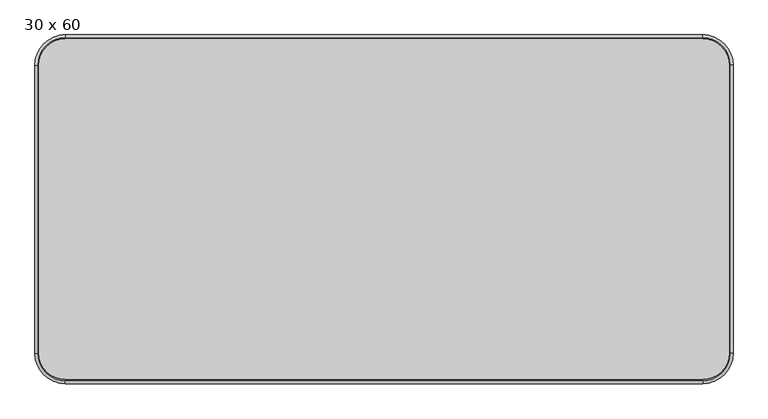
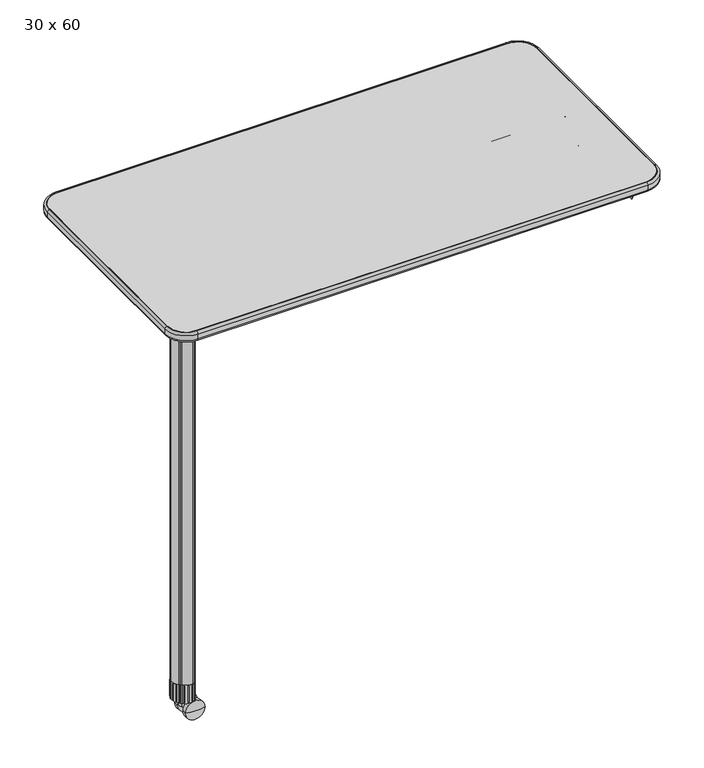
"""IFC4 building model written with IfcOpenShell, lengths in millimetres: furniture geometry, SmithSystem_AM_Desking_Education_Interchange_Student_Activity : 30 x 60."""

from ifc_helpers import new_model, si_unit, point, frame, frame_2d, origin, place, context, project, spatial, polyline, circle_curve, ellipse_curve, trimmed, segment, composite_curve, outline, extrude, source, transform, mapped, element, save
from ifc_brep_helpers import plane_surface, cylinder_surface, revolved_surface, advanced_brep


def furniture_30_x_60_9882679b(model_context):
    return source(origin(), model_context, "Body", "SolidModel", [
        advanced_brep(
        [(44.3181701, 75.4828432, 35.017382), (104.9234839, 75.4828432, 35.017382), (74.620827, 75.4828432, 35.017382), (74.620827, 93.8056302, 35.017382), (104.9234839, 88.7241133, 35.017382), (44.3181701, 88.7241133, 35.017382)],
        [
            (0, 1, circle_curve(frame((74.620827, 75.4828432, 35.017382), z_axis=(0.0, -1.0, 0.0), x_axis=(1.0000000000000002, 0.0, 0.0)), 30.3026569)),
            (1, 2),
            (2, 0),
            (1, 0, circle_curve(frame((74.620827, 75.4828432, 35.017382), z_axis=(0.0, -1.0, 0.0), x_axis=(1.0000000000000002, 0.0, 0.0)), 30.3026569)),
            (3, 4, circle_curve(frame((74.620827, 0.9128138, 35.017382), z_axis=(0.0, 0.0, -1.0000000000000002), x_axis=(0.0, -1.0, 0.0)), 92.8928164)),
            (4, 5, circle_curve(frame((74.620827, 88.7241133, 35.017382), z_axis=(0.0, 1.0, 0.0), x_axis=(1.0000000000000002, 0.0, 0.0)), 30.3026569)),
            (5, 3, circle_curve(frame((74.620827, 0.9128138, 35.017382), z_axis=(0.0, 0.0, -1.0000000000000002), x_axis=(0.0, -1.0, 0.0)), 92.8928164)),
            (5, 4, circle_curve(frame((74.620827, 88.7241133, 35.017382), z_axis=(0.0, 1.0, 0.0), x_axis=(1.0000000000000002, 0.0, 0.0)), 30.3026569)),
            (4, 1),
            (0, 5),
        ],
        [
            plane_surface(frame((74.620827, 75.4828432, 35.017382), z_axis=(0.0, -1.0, 0.0), x_axis=(1.0, 0.0, 0.0))),
            revolved_surface(trimmed(ellipse_curve(frame((74.620827, 0.9128138, 35.017382), z_axis=(0.0, 0.0, 1.0000000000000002), x_axis=(0.0, -1.0, 0.0)), 92.8928164, 92.8928164), [point((104.9234839, 88.7241133, 35.017382))], [point((74.620827, 93.8056302, 35.017382))], True, "CARTESIAN"), (74.620827, 75.4828432, 35.017382), (0.0, 1.0, 0.0)),
            cylinder_surface(frame((74.620827, 75.4828432, 35.017382), z_axis=(0.0, 1.0, 0.0), x_axis=(1.0000000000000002, 0.0, 0.0)), 30.3026569),
        ],
        [
            (0, [[1, 2, 3]]),
            (0, [[4, -3, -2]]),
            (1, [[5, 6, 7]]),
            (1, [[-7, 8, -5]]),
            (2, [[-6, 9, -1, 10]]),
            (2, [[-8, -10, -4, -9]]),
        ],
    ),
        advanced_brep(
        [(44.3181701, 44.8805061, 35.017382), (104.9234839, 44.8805061, 35.017382), (104.9234839, 31.639236, 35.017382), (44.3181701, 31.639236, 35.017382), (74.620827, 26.5577191, 35.017382), (74.620827, 44.8805061, 35.017382)],
        [
            (0, 1, circle_curve(frame((74.620827, 44.8805061, 35.017382), z_axis=(0.0, -1.0, 0.0), x_axis=(1.0000000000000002, 0.0, 0.0)), 30.3026569)),
            (1, 2),
            (2, 3, circle_curve(frame((74.620827, 31.639236, 35.017382), z_axis=(0.0, 1.0, 0.0), x_axis=(1.0000000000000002, 0.0, 0.0)), 30.3026569)),
            (3, 0),
            (1, 0, circle_curve(frame((74.620827, 44.8805061, 35.017382), z_axis=(0.0, -1.0, 0.0), x_axis=(1.0000000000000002, 0.0, 0.0)), 30.3026569)),
            (3, 2, circle_curve(frame((74.620827, 31.639236, 35.017382), z_axis=(0.0, 1.0, 0.0), x_axis=(1.0000000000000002, 0.0, 0.0)), 30.3026569)),
            (2, 4, circle_curve(frame((74.620827, 119.4505355, 35.017382), z_axis=(0.0, 0.0, -1.0000000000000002), x_axis=(0.0, -1.0, 0.0)), 92.8928164)),
            (4, 3, circle_curve(frame((74.620827, 119.4505355, 35.017382), z_axis=(0.0, 0.0, -1.0000000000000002), x_axis=(0.0, -1.0, 0.0)), 92.8928164)),
            (5, 1),
            (0, 5),
        ],
        [
            cylinder_surface(frame((74.620827, 75.4828432, 35.017382), z_axis=(0.0, 1.0, 0.0), x_axis=(1.0000000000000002, 0.0, 0.0)), 30.3026569),
            revolved_surface(trimmed(ellipse_curve(frame((74.620827, 119.4505355, 35.017382), z_axis=(0.0, 0.0, 1.0000000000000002), x_axis=(0.0, -1.0, 0.0)), 92.8928164, 92.8928164), [point((74.620827, 26.5577191, 35.017382))], [point((104.9234839, 31.639236, 35.017382))], True, "CARTESIAN"), (74.620827, 75.4828432, 35.017382), (0.0, 1.0, 0.0)),
            plane_surface(frame((74.620827, 44.8805061, 35.017382), z_axis=(0.0, 1.0, 0.0), x_axis=(1.0, 0.0, 0.0))),
        ],
        [
            (0, [[1, 2, 3, 4]]),
            (0, [[5, -4, 6, -2]]),
            (1, [[-3, 7, 8]]),
            (1, [[-6, -8, -7]]),
            (2, [[9, -1, 10]]),
            (2, [[-10, -5, -9]]),
        ],
    ),
        advanced_brep(
        [(51.3766004, 59.5614841, 82.55), (66.4982897, 74.6831734, 82.55), (36.2549111, 44.4397948, 82.55), (44.5409023, 52.725786, 44.141232), (58.2122984, 66.3971821, 44.141232), (51.3766004, 59.5614841, 44.141232), (44.5409023, 52.725786, 70.5739), (58.2122984, 66.3971821, 70.5739), (48.2776927, 56.4625764, 70.5739), (54.475508, 62.6603917, 70.5739), (48.2776927, 56.4625764, 72.4789), (54.475508, 62.6603917, 72.4789), (44.5409023, 52.725786, 72.4789), (58.2122984, 66.3971821, 72.4789), (44.5409023, 52.725786, 77.5589), (58.2122984, 66.3971821, 77.5589), (36.2549111, 44.4397948, 77.5589), (66.4982897, 74.6831734, 77.5589)],
        [
            (0, 1),
            (1, 2, circle_curve(frame((51.3766004, 59.5614841, 82.55), z_axis=(0.0, 0.0, 1.0), x_axis=(0.7071067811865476, 0.7071067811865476, 0.0)), 21.3852981)),
            (2, 0),
            (2, 1, circle_curve(frame((51.3766004, 59.5614841, 82.55), z_axis=(0.0, 0.0, 1.0), x_axis=(0.7071067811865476, 0.7071067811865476, 0.0)), 21.3852981)),
            (3, 4, circle_curve(frame((51.3766004, 59.5614841, 44.141232), z_axis=(0.0, 0.0, -1.0), x_axis=(0.7071067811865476, 0.7071067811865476, 0.0)), 9.6671369)),
            (4, 5),
            (5, 3),
            (4, 3, circle_curve(frame((51.3766004, 59.5614841, 44.141232), z_axis=(0.0, 0.0, -1.0), x_axis=(0.7071067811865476, 0.7071067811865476, 0.0)), 9.6671369)),
            (6, 7, circle_curve(frame((51.3766004, 59.5614841, 70.5739), z_axis=(0.0, 0.0, -1.0), x_axis=(0.7071067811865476, 0.7071067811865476, 0.0)), 9.6671369)),
            (7, 4),
            (3, 6),
            (7, 6, circle_curve(frame((51.3766004, 59.5614841, 70.5739), z_axis=(0.0, 0.0, -1.0), x_axis=(0.7071067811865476, 0.7071067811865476, 0.0)), 9.6671369)),
            (8, 9, circle_curve(frame((51.3766004, 59.5614841, 70.5739), z_axis=(0.0, 0.0, -1.0), x_axis=(0.7071067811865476, 0.7071067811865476, 0.0)), 4.3825172)),
            (9, 7),
            (6, 8),
            (9, 8, circle_curve(frame((51.3766004, 59.5614841, 70.5739), z_axis=(0.0, 0.0, -1.0), x_axis=(0.7071067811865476, 0.7071067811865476, 0.0)), 4.3825172)),
            (10, 11, circle_curve(frame((51.3766004, 59.5614841, 72.4789), z_axis=(0.0, 0.0, -1.0), x_axis=(0.7071067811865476, 0.7071067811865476, 0.0)), 4.3825172)),
            (11, 9),
            (8, 10),
            (11, 10, circle_curve(frame((51.3766004, 59.5614841, 72.4789), z_axis=(0.0, 0.0, -1.0), x_axis=(0.7071067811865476, 0.7071067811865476, 0.0)), 4.3825172)),
            (12, 13, circle_curve(frame((51.3766004, 59.5614841, 72.4789), z_axis=(0.0, 0.0, -1.0), x_axis=(0.7071067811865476, 0.7071067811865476, 0.0)), 9.6671369)),
            (13, 11),
            (10, 12),
            (13, 12, circle_curve(frame((51.3766004, 59.5614841, 72.4789), z_axis=(0.0, 0.0, -1.0), x_axis=(0.7071067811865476, 0.7071067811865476, 0.0)), 9.6671369)),
            (14, 15, circle_curve(frame((51.3766004, 59.5614841, 77.5589), z_axis=(0.0, 0.0, -1.0), x_axis=(0.7071067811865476, 0.7071067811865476, 0.0)), 9.6671369)),
            (15, 13),
            (12, 14),
            (15, 14, circle_curve(frame((51.3766004, 59.5614841, 77.5589), z_axis=(0.0, 0.0, -1.0), x_axis=(0.7071067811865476, 0.7071067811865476, 0.0)), 9.6671369)),
            (16, 17, circle_curve(frame((51.3766004, 59.5614841, 77.5589), z_axis=(0.0, 0.0, -1.0), x_axis=(0.7071067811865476, 0.7071067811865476, 0.0)), 21.3852981)),
            (17, 15),
            (14, 16),
            (17, 16, circle_curve(frame((51.3766004, 59.5614841, 77.5589), z_axis=(0.0, 0.0, -1.0), x_axis=(0.7071067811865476, 0.7071067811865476, 0.0)), 21.3852981)),
            (1, 17),
            (16, 2),
        ],
        [
            plane_surface(frame((51.3766004, 59.5614841, 82.55), z_axis=(0.0, 0.0, 1.0000000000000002), x_axis=(0.7071067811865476, 0.7071067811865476, 0.0))),
            plane_surface(frame((51.3766004, 59.5614841, 44.141232), z_axis=(0.0, 0.0, -1.0000000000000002), x_axis=(0.7071067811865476, 0.7071067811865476, 0.0))),
            cylinder_surface(frame((51.3766004, 59.5614841, 56.841232), z_axis=(0.0, 0.0, 1.0), x_axis=(0.7071067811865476, 0.7071067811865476, 0.0)), 9.6671369),
            plane_surface(frame((51.3766004, 59.5614841, 70.5739), z_axis=(0.0, 0.0, 1.0000000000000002), x_axis=(0.7071067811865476, 0.7071067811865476, 0.0))),
            cylinder_surface(frame((51.3766004, 59.5614841, 56.841232), z_axis=(0.0, 0.0, 1.0), x_axis=(0.7071067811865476, 0.7071067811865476, 0.0)), 4.3825172),
            plane_surface(frame((51.3766004, 59.5614841, 72.4789), z_axis=(0.0, 0.0, -1.0000000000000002), x_axis=(0.7071067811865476, 0.7071067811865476, 0.0))),
            plane_surface(frame((51.3766004, 59.5614841, 77.5589), z_axis=(0.0, 0.0, -1.0000000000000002), x_axis=(0.7071067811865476, 0.7071067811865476, 0.0))),
            cylinder_surface(frame((51.3766004, 59.5614841, 56.841232), z_axis=(0.0, 0.0, 1.0), x_axis=(0.7071067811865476, 0.7071067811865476, 0.0)), 21.3852981),
        ],
        [
            (0, [[1, 2, 3]]),
            (0, [[-3, 4, -1]]),
            (1, [[5, 6, 7]]),
            (1, [[8, -7, -6]]),
            (2, [[9, 10, -5, 11]]),
            (2, [[12, -11, -8, -10]]),
            (3, [[13, 14, -9, 15]]),
            (3, [[16, -15, -12, -14]]),
            (4, [[17, 18, -13, 19]]),
            (4, [[20, -19, -16, -18]]),
            (5, [[21, 22, -17, 23]]),
            (5, [[24, -23, -20, -22]]),
            (2, [[25, 26, -21, 27]]),
            (2, [[28, -27, -24, -26]]),
            (6, [[29, 30, -25, 31]]),
            (6, [[32, -31, -28, -30]]),
            (7, [[-2, 33, -29, 34]]),
            (7, [[-4, -34, -32, -33]]),
        ],
    ),
        extrude(outline(composite_curve([segment(trimmed(circle_curve(frame_2d((47.190021, 48.1906998)), 32.5855406), [point((70.2314777, 71.2321565))], [point((79.5326739, 44.2195213))], False, "CARTESIAN"), True, "CONTINUOUS"), segment(trimmed(circle_curve(frame_2d((60.0047299, 46.6172514)), 19.6745954), [point((79.5326739, 44.2195213))], [point((78.1727203, 39.0665011))], False, "CARTESIAN"), True, "CONTINUOUS"), segment(trimmed(circle_curve(frame_2d((69.9070972, 42.5017548)), 8.9510611), [point((78.1727203, 39.0665011))], [point((76.2364532, 36.1723988))], False, "CARTESIAN"), True, "CONTINUOUS"), segment(polyline([(76.2364532, 36.1723988), (75.5010694, 35.4370151), (74.7656856, 34.7016313)]), True, "CONTINUOUS"), segment(trimmed(circle_curve(frame_2d((68.4363296, 41.0309873)), 8.9510611), [point((74.7656856, 34.7016313))], [point((71.8715833, 32.7653641))], False, "CARTESIAN"), True, "CONTINUOUS"), segment(trimmed(circle_curve(frame_2d((64.3208331, 50.9333545)), 19.6745954), [point((71.8715833, 32.7653641))], [point((66.7185631, 31.4054105))], False, "CARTESIAN"), True, "CONTINUOUS"), segment(trimmed(circle_curve(frame_2d((62.7473847, 63.7480635)), 32.5855406), [point((66.7185631, 31.4054105))], [point((39.7059279, 40.7066067))], False, "CARTESIAN"), True, "CONTINUOUS"), segment(polyline([(39.7059279, 40.7066067), (36.1138255, 44.2987092), (32.521723, 47.8908116)]), True, "CONTINUOUS"), segment(trimmed(circle_curve(frame_2d((55.5631798, 70.9322684)), 32.5855406), [point((32.521723, 47.8908116))], [point((23.2205268, 74.9034468))], False, "CARTESIAN"), True, "CONTINUOUS"), segment(trimmed(circle_curve(frame_2d((42.7484708, 72.5057168)), 19.6745954), [point((23.2205268, 74.9034468))], [point((24.5804804, 80.056467))], False, "CARTESIAN"), True, "CONTINUOUS"), segment(trimmed(circle_curve(frame_2d((32.8461036, 76.6212133)), 8.9510611), [point((24.5804804, 80.056467))], [point((26.5167476, 82.9505693))], False, "CARTESIAN"), True, "CONTINUOUS"), segment(polyline([(26.5167476, 82.9505693), (27.2521313, 83.6859531), (27.9875151, 84.4213369)]), True, "CONTINUOUS"), segment(trimmed(circle_curve(frame_2d((34.3168711, 78.0919809)), 8.9510611), [point((27.9875151, 84.4213369))], [point((30.8816174, 86.3576041))], False, "CARTESIAN"), True, "CONTINUOUS"), segment(trimmed(circle_curve(frame_2d((38.4323677, 68.1896136)), 19.6745954), [point((30.8816174, 86.3576041))], [point((36.0346376, 87.7175576))], False, "CARTESIAN"), True, "CONTINUOUS"), segment(trimmed(circle_curve(frame_2d((40.0058161, 55.3749047)), 32.5855406), [point((36.0346376, 87.7175576))], [point((63.0472728, 78.4163614))], False, "CARTESIAN"), True, "CONTINUOUS"), segment(polyline([(63.0472728, 78.4163614), (66.6393752, 74.824259), (70.2314777, 71.2321565)]), True, "CONTINUOUS")], self_intersect=False)), frame((0.0, 0.0, 63.4997351), z_axis=(0.0, 0.0, 1.0), x_axis=(1.0, 0.0, 0.0)), (0.0, 0.0, 1.0), 59.42631),
        extrude(outline(composite_curve([segment(polyline([(35.2157999, 45.1967348), (36.1138255, 44.2987092), (37.0118511, 43.4006836)]), True, "CONTINUOUS"), segment(trimmed(circle_curve(frame_2d((36.1138255, 44.2987092)), 1.27), [point((37.0118511, 43.4006836))], [point((35.2157999, 45.1967348))], False, "CARTESIAN"), True, "CONTINUOUS")], self_intersect=False)), frame((0.0, 0.0, 67.2639757), z_axis=(0.0, 0.0, 1.0), x_axis=(1.0, 0.0, 0.0)), (0.0, 0.0, 1.0), 52.9554897),
        extrude(outline(composite_curve([segment(polyline([(28.1764663, 84.5576694), (27.2784407, 83.6596437), (26.3804151, 82.7616181)]), True, "CONTINUOUS"), segment(trimmed(circle_curve(frame_2d((27.2784407, 83.6596437)), 1.27), [point((26.3804151, 82.7616181))], [point((28.1764663, 84.5576694))], False, "CARTESIAN"), True, "CONTINUOUS")], self_intersect=False)), frame((0.0, 0.0, 67.2639757), z_axis=(0.0, 0.0, 1.0), x_axis=(1.0, 0.0, 0.0)), (0.0, 0.0, 1.0), 52.9554897),
        extrude(outline(composite_curve([segment(trimmed(circle_curve(frame_2d((75.47476, 35.4633244)), 1.27), [point((76.3727856, 36.36135))], [point((74.5767344, 34.5652988))], False, "CARTESIAN"), True, "CONTINUOUS"), segment(polyline([(74.5767344, 34.5652988), (75.47476, 35.4633244), (76.3727856, 36.36135)]), True, "CONTINUOUS")], self_intersect=False)), frame((0.0, 0.0, 67.2639757), z_axis=(0.0, 0.0, 1.0), x_axis=(1.0, 0.0, 0.0)), (0.0, 0.0, 1.0), 52.9554897),
        extrude(outline(composite_curve([segment(trimmed(circle_curve(frame_2d((65.6084721, 31.3425404)), 1.27), [point((66.874417, 31.4439485))], [point((64.3425272, 31.2411324))], False, "CARTESIAN"), True, "CONTINUOUS"), segment(polyline([(64.3425272, 31.2411324), (65.6084721, 31.3425404), (66.874417, 31.4439485)]), True, "CONTINUOUS")], self_intersect=False)), frame((0.0, 0.0, 67.2639757), z_axis=(0.0, 0.0, 1.0), x_axis=(1.0, 0.0, 0.0)), (0.0, 0.0, 1.0), 52.9554897),
        extrude(outline(composite_curve([segment(trimmed(circle_curve(frame_2d((54.5655031, 32.2765941)), 1.27), [point((55.7954927, 31.960326))], [point((53.3355135, 32.5928623))], False, "CARTESIAN"), True, "CONTINUOUS"), segment(polyline([(53.3355135, 32.5928623), (54.5655031, 32.2765941), (55.7954927, 31.960326)]), True, "CONTINUOUS")], self_intersect=False)), frame((0.0, 0.0, 67.2639757), z_axis=(0.0, 0.0, 1.0), x_axis=(1.0, 0.0, 0.0)), (0.0, 0.0, 1.0), 52.9554897),
        extrude(outline(composite_curve([segment(trimmed(circle_curve(frame_2d((44.409403, 36.8760432)), 1.27), [point((45.4570451, 36.1581671))], [point((43.3617609, 37.5939193))], False, "CARTESIAN"), True, "CONTINUOUS"), segment(polyline([(43.3617609, 37.5939193), (44.409403, 36.8760432), (45.4570451, 36.1581671)]), True, "CONTINUOUS")], self_intersect=False)), frame((0.0, 0.0, 67.2639757), z_axis=(0.0, 0.0, 1.0), x_axis=(1.0, 0.0, 0.0)), (0.0, 0.0, 1.0), 52.9554897),
        extrude(outline(composite_curve([segment(polyline([(23.2590648, 75.0593007), (23.1576567, 73.7933558), (23.0562487, 72.5274109)]), True, "CONTINUOUS"), segment(trimmed(circle_curve(frame_2d((23.1576567, 73.7933558)), 1.27), [point((23.0562487, 72.5274109))], [point((23.2590648, 75.0593007))], False, "CARTESIAN"), True, "CONTINUOUS")], self_intersect=False)), frame((0.0, 0.0, 67.2639757), z_axis=(0.0, 0.0, 1.0), x_axis=(1.0, 0.0, 0.0)), (0.0, 0.0, 1.0), 52.9554897),
        extrude(outline(composite_curve([segment(polyline([(23.7754423, 63.9803764), (24.0917104, 62.7503868), (24.4079786, 61.5203972)]), True, "CONTINUOUS"), segment(trimmed(circle_curve(frame_2d((24.0917104, 62.7503868)), 1.27), [point((24.4079786, 61.5203972))], [point((23.7754423, 63.9803764))], False, "CARTESIAN"), True, "CONTINUOUS")], self_intersect=False)), frame((0.0, 0.0, 67.2639757), z_axis=(0.0, 0.0, 1.0), x_axis=(1.0, 0.0, 0.0)), (0.0, 0.0, 1.0), 52.9554897),
        extrude(outline(composite_curve([segment(polyline([(27.9732834, 53.6419288), (28.6911595, 52.5942867), (29.4090356, 51.5466446)]), True, "CONTINUOUS"), segment(trimmed(circle_curve(frame_2d((28.6911595, 52.5942867)), 1.27), [point((29.4090356, 51.5466446))], [point((27.9732834, 53.6419288))], False, "CARTESIAN"), True, "CONTINUOUS")], self_intersect=False)), frame((0.0, 0.0, 67.2639757), z_axis=(0.0, 0.0, 1.0), x_axis=(1.0, 0.0, 0.0)), (0.0, 0.0, 1.0), 52.9554897),
        extrude(outline(composite_curve([segment(trimmed(circle_curve(frame_2d((66.6393752, 74.824259)), 1.27), [point((65.7413496, 75.7222846))], [point((67.5374009, 73.9262333))], False, "CARTESIAN"), True, "CONTINUOUS"), segment(polyline([(67.5374009, 73.9262333), (66.6393752, 74.824259), (65.7413496, 75.7222846)]), True, "CONTINUOUS")], self_intersect=False)), frame((0.0, 0.0, 67.2639757), z_axis=(0.0, 0.0, 1.0), x_axis=(1.0, 0.0, 0.0)), (0.0, 0.0, 1.0), 52.9554897),
        extrude(outline(composite_curve([segment(polyline([(79.4941359, 44.0636675), (79.595544, 45.3296123), (79.696952, 46.5955572)]), True, "CONTINUOUS"), segment(trimmed(circle_curve(frame_2d((79.595544, 45.3296123)), 1.27), [point((79.696952, 46.5955572))], [point((79.4941359, 44.0636675))], False, "CARTESIAN"), True, "CONTINUOUS")], self_intersect=False)), frame((0.0, 0.0, 67.2639757), z_axis=(0.0, 0.0, 1.0), x_axis=(1.0, 0.0, 0.0)), (0.0, 0.0, 1.0), 52.9554897),
        extrude(outline(composite_curve([segment(polyline([(78.9777584, 55.1425917), (78.6614903, 56.3725813), (78.3452221, 57.602571)]), True, "CONTINUOUS"), segment(trimmed(circle_curve(frame_2d((78.6614903, 56.3725813)), 1.27), [point((78.3452221, 57.602571))], [point((78.9777584, 55.1425917))], False, "CARTESIAN"), True, "CONTINUOUS")], self_intersect=False)), frame((0.0, 0.0, 67.2639757), z_axis=(0.0, 0.0, 1.0), x_axis=(1.0, 0.0, 0.0)), (0.0, 0.0, 1.0), 52.9554897),
        extrude(outline(composite_curve([segment(polyline([(74.7799173, 65.4810394), (74.0620412, 66.5286815), (73.3441651, 67.5763235)]), True, "CONTINUOUS"), segment(trimmed(circle_curve(frame_2d((74.0620412, 66.5286815)), 1.27), [point((73.3441651, 67.5763235))], [point((74.7799173, 65.4810394))], False, "CARTESIAN"), True, "CONTINUOUS")], self_intersect=False)), frame((0.0, 0.0, 67.2639757), z_axis=(0.0, 0.0, 1.0), x_axis=(1.0, 0.0, 0.0)), (0.0, 0.0, 1.0), 52.9554897),
        extrude(outline(composite_curve([segment(trimmed(circle_curve(frame_2d((37.1447286, 87.7804277)), 1.27), [point((35.8787838, 87.6790197))], [point((38.4106735, 87.8818357))], False, "CARTESIAN"), True, "CONTINUOUS"), segment(polyline([(38.4106735, 87.8818357), (37.1447286, 87.7804277), (35.8787838, 87.6790197)]), True, "CONTINUOUS")], self_intersect=False)), frame((0.0, 0.0, 67.2639757), z_axis=(0.0, 0.0, 1.0), x_axis=(1.0, 0.0, 0.0)), (0.0, 0.0, 1.0), 52.9554897),
        extrude(outline(composite_curve([segment(trimmed(circle_curve(frame_2d((48.1876976, 86.846374)), 1.27), [point((46.957708, 87.1626422))], [point((49.4176872, 86.5301059))], False, "CARTESIAN"), True, "CONTINUOUS"), segment(polyline([(49.4176872, 86.5301059), (48.1876976, 86.846374), (46.957708, 87.1626422)]), True, "CONTINUOUS")], self_intersect=False)), frame((0.0, 0.0, 67.2639757), z_axis=(0.0, 0.0, 1.0), x_axis=(1.0, 0.0, 0.0)), (0.0, 0.0, 1.0), 52.9554897),
        extrude(outline(composite_curve([segment(trimmed(circle_curve(frame_2d((58.3437977, 82.2469249)), 1.27), [point((57.2961557, 82.964801))], [point((59.3914398, 81.5290489))], False, "CARTESIAN"), True, "CONTINUOUS"), segment(polyline([(59.3914398, 81.5290489), (58.3437977, 82.2469249), (57.2961557, 82.964801)]), True, "CONTINUOUS")], self_intersect=False)), frame((0.0, 0.0, 67.2639757), z_axis=(0.0, 0.0, 1.0), x_axis=(1.0, 0.0, 0.0)), (0.0, 0.0, 1.0), 52.9554897),
        extrude(outline(composite_curve([segment(polyline([(39.7059279, 40.7066067), (36.1138255, 44.2987092), (32.521723, 47.8908116)]), True, "CONTINUOUS"), segment(trimmed(circle_curve(frame_2d((55.5631798, 70.9322684)), 32.5855406), [point((32.521723, 47.8908116))], [point((23.2205268, 74.9034468))], False, "CARTESIAN"), True, "CONTINUOUS"), segment(trimmed(circle_curve(frame_2d((42.7484708, 72.5057168)), 19.6745954), [point((23.2205268, 74.9034468))], [point((24.5804804, 80.056467))], False, "CARTESIAN"), True, "CONTINUOUS"), segment(trimmed(circle_curve(frame_2d((32.8461036, 76.6212133)), 8.9510611), [point((24.5804804, 80.056467))], [point((26.5167476, 82.9505693))], False, "CARTESIAN"), True, "CONTINUOUS"), segment(polyline([(26.5167476, 82.9505693), (27.2521313, 83.6859531), (27.9875151, 84.4213369)]), True, "CONTINUOUS"), segment(trimmed(circle_curve(frame_2d((34.3168711, 78.0919809)), 8.9510611), [point((27.9875151, 84.4213369))], [point((30.8816174, 86.3576041))], False, "CARTESIAN"), True, "CONTINUOUS"), segment(trimmed(circle_curve(frame_2d((38.4323677, 68.1896136)), 19.6745954), [point((30.8816174, 86.3576041))], [point((36.0346376, 87.7175576))], False, "CARTESIAN"), True, "CONTINUOUS"), segment(trimmed(circle_curve(frame_2d((40.0058161, 55.3749047)), 32.5855406), [point((36.0346376, 87.7175576))], [point((63.0472728, 78.4163614))], False, "CARTESIAN"), True, "CONTINUOUS"), segment(polyline([(63.0472728, 78.4163614), (66.6393752, 74.824259), (70.2314777, 71.2321565)]), True, "CONTINUOUS"), segment(trimmed(circle_curve(frame_2d((47.190021, 48.1906998)), 32.5855406), [point((70.2314777, 71.2321565))], [point((79.5326739, 44.2195213))], False, "CARTESIAN"), True, "CONTINUOUS"), segment(trimmed(circle_curve(frame_2d((60.0047299, 46.6172514)), 19.6745954), [point((79.5326739, 44.2195213))], [point((78.1727203, 39.0665011))], False, "CARTESIAN"), True, "CONTINUOUS"), segment(trimmed(circle_curve(frame_2d((69.9070972, 42.5017548)), 8.9510611), [point((78.1727203, 39.0665011))], [point((76.2364532, 36.1723988))], False, "CARTESIAN"), True, "CONTINUOUS"), segment(polyline([(76.2364532, 36.1723988), (75.5010694, 35.4370151), (74.7656856, 34.7016313)]), True, "CONTINUOUS"), segment(trimmed(circle_curve(frame_2d((68.4363296, 41.0309873)), 8.9510611), [point((74.7656856, 34.7016313))], [point((71.8715833, 32.7653641))], False, "CARTESIAN"), True, "CONTINUOUS"), segment(trimmed(circle_curve(frame_2d((64.3208331, 50.9333545)), 19.6745954), [point((71.8715833, 32.7653641))], [point((66.7185631, 31.4054105))], False, "CARTESIAN"), True, "CONTINUOUS"), segment(trimmed(circle_curve(frame_2d((62.7473847, 63.7480635)), 32.5855406), [point((66.7185631, 31.4054105))], [point((39.7059279, 40.7066067))], False, "CARTESIAN"), True, "CONTINUOUS")], self_intersect=False)), frame((0.0, 0.0, 122.9260451), z_axis=(0.0, 0.0, 1.0), x_axis=(1.0, 0.0, 0.0)), (0.0, 0.0, 1.0), 1140.1156939),
        extrude(outline(polyline([(50.0797748, 85.1609527), (53.4246351, 88.5058129), (80.2662632, 61.6641848), (76.921403, 58.3193245), (50.0797748, 85.1609527)])), frame((0.0, 0.0, 1207.0152169), z_axis=(0.0, 0.0, 1.0), x_axis=(1.0, 0.0, 0.0)), (0.0, 0.0, 1.0), 56.0265221),
        extrude(outline(polyline([(53.7381843, 88.1922637), (53.7381843, 673.8077363), (79.1384349, 699.2079869), (79.1384349, 62.7920131), (53.7381843, 88.1922637)])), frame((0.0, 0.0, 1207.0152169), z_axis=(0.0, 0.0, 1.0), x_axis=(1.0, 0.0, 0.0)), (0.0, 0.0, 1.0), 57.997768),
        extrude(outline(polyline([(1470.2618157, 88.1922637), (1444.8615651, 62.7920131), (1444.8615651, 699.2088142), (1470.2618157, 673.8085636), (1470.2618157, 88.1922637)])), frame((0.0, 0.0, 1207.0152169), z_axis=(0.0, 0.0, 1.0), x_axis=(1.0, 0.0, 0.0)), (0.0, 0.0, 1.0), 57.997768),
        extrude(outline(composite_curve([segment(polyline([(405.9790347, 1212.4682392), (415.5040301, 1212.4682392)]), True, "CONTINUOUS"), segment(trimmed(circle_curve(frame_2d((415.5040301, 1213.7458547)), 1.2776155), [point((415.5040301, 1212.4682392))], [point((416.7816457, 1213.7458547))], True, "CARTESIAN"), True, "CONTINUOUS"), segment(polyline([(416.7816457, 1213.7458547), (416.7816457, 1261.771739)]), True, "CONTINUOUS"), segment(trimmed(circle_curve(frame_2d((415.5116457, 1261.771739)), 1.27), [point((416.7816457, 1261.771739))], [point((415.5116457, 1263.041739))], True, "CARTESIAN"), True, "CONTINUOUS"), segment(polyline([(415.5116457, 1263.041739), (346.4883543, 1263.041739)]), True, "CONTINUOUS"), segment(trimmed(circle_curve(frame_2d((346.4883543, 1261.771739)), 1.27), [point((346.4883543, 1263.041739))], [point((345.2183543, 1261.771739))], True, "CARTESIAN"), True, "CONTINUOUS"), segment(polyline([(345.2183543, 1261.771739), (345.2183543, 1213.7458547)]), True, "CONTINUOUS"), segment(trimmed(circle_curve(frame_2d((346.4959699, 1213.7458547)), 1.2776155), [point((345.2183543, 1213.7458547))], [point((346.4959699, 1212.4682392))], True, "CARTESIAN"), True, "CONTINUOUS"), segment(polyline([(346.4959699, 1212.4682392), (356.0209653, 1212.4682392), (356.0209653, 1210.5708623), (346.4959699, 1210.5708623)]), True, "CONTINUOUS"), segment(trimmed(circle_curve(frame_2d((346.4959699, 1213.7458842)), 3.175022), [point((346.4959699, 1210.5708623))], [point((343.3209479, 1213.7458842))], False, "CARTESIAN"), True, "CONTINUOUS"), segment(polyline([(343.3209479, 1213.7458842), (343.3209479, 1261.7109849)]), True, "CONTINUOUS"), segment(trimmed(circle_curve(frame_2d((346.6229479, 1261.7109849)), 3.302), [point((343.3209479, 1261.7109849))], [point((346.6229479, 1265.0129849))], False, "CARTESIAN"), True, "CONTINUOUS"), segment(polyline([(346.6229479, 1265.0129849), (415.3770521, 1265.0129849)]), True, "CONTINUOUS"), segment(trimmed(circle_curve(frame_2d((415.3770521, 1261.7109849)), 3.302), [point((415.3770521, 1265.0129849))], [point((418.6790521, 1261.7109849))], False, "CARTESIAN"), True, "CONTINUOUS"), segment(polyline([(418.6790521, 1261.7109849), (418.6790521, 1213.7458842)]), True, "CONTINUOUS"), segment(trimmed(circle_curve(frame_2d((415.5040301, 1213.7458842)), 3.175022), [point((418.6790521, 1213.7458842))], [point((415.5040301, 1210.5708623))], False, "CARTESIAN"), True, "CONTINUOUS"), segment(polyline([(415.5040301, 1210.5708623), (405.9790347, 1210.5708623), (405.9790347, 1212.4682392)]), True, "CONTINUOUS")], self_intersect=False)), frame((79.1384349, 0.0, 0.0), z_axis=(1.0, 0.0, 0.0), x_axis=(0.0, 1.0, 0.0)), (0.0, 0.0, 1.0), 1365.7231302),
        extrude(outline(composite_curve([segment(trimmed(circle_curve(frame_2d((91.0568087, 559.9761036)), 12.7), [point((103.7568087, 559.9761036))], [point((91.0568087, 547.2761036))], False, "CARTESIAN"), True, "CONTINUOUS"), segment(polyline([(91.0568087, 547.2761036), (37.0817672, 547.2761036)]), True, "CONTINUOUS"), segment(trimmed(circle_curve(frame_2d((37.0817672, 559.9761036)), 12.7), [point((37.0817672, 547.2761036))], [point((24.3817672, 559.9761036))], False, "CARTESIAN"), True, "CONTINUOUS"), segment(polyline([(24.3817672, 559.9761036), (24.3817672, 724.3144586)]), True, "CONTINUOUS"), segment(trimmed(circle_curve(frame_2d((37.0817672, 724.3144586)), 12.7), [point((24.3817672, 724.3144586))], [point((37.0817672, 737.0144586))], False, "CARTESIAN"), True, "CONTINUOUS"), segment(polyline([(37.0817672, 737.0144586), (91.0568087, 737.0144586)]), True, "CONTINUOUS"), segment(trimmed(circle_curve(frame_2d((91.0568087, 724.3144586)), 12.7), [point((91.0568087, 737.0144586))], [point((103.7568087, 724.3144586))], False, "CARTESIAN"), True, "CONTINUOUS"), segment(polyline([(103.7568087, 724.3144586), (103.7568087, 559.9761036)]), True, "CONTINUOUS")], self_intersect=False)), frame((0.0, 0.0, 1263.041739), z_axis=(0.0, 0.0, 1.0), x_axis=(1.0, 0.0, 0.0)), (0.0, 0.0, 1.0), 1.971246),
        extrude(outline(composite_curve([segment(trimmed(circle_curve(frame_2d((91.0568087, 37.6941247)), 12.7), [point((103.7568087, 37.6941247))], [point((91.0568087, 24.9941247))], False, "CARTESIAN"), True, "CONTINUOUS"), segment(polyline([(91.0568087, 24.9941247), (37.0817672, 24.9941247)]), True, "CONTINUOUS"), segment(trimmed(circle_curve(frame_2d((37.0817672, 37.6941247)), 12.7), [point((37.0817672, 24.9941247))], [point((24.3817672, 37.6941247))], False, "CARTESIAN"), True, "CONTINUOUS"), segment(polyline([(24.3817672, 37.6941247), (24.3817672, 202.0324797)]), True, "CONTINUOUS"), segment(trimmed(circle_curve(frame_2d((37.0817672, 202.0324797)), 12.7), [point((24.3817672, 202.0324797))], [point((37.0817672, 214.7324797))], False, "CARTESIAN"), True, "CONTINUOUS"), segment(polyline([(37.0817672, 214.7324797), (91.0568087, 214.7324797)]), True, "CONTINUOUS"), segment(trimmed(circle_curve(frame_2d((91.0568087, 202.0324797)), 12.7), [point((91.0568087, 214.7324797))], [point((103.7568087, 202.0324797))], False, "CARTESIAN"), True, "CONTINUOUS"), segment(polyline([(103.7568087, 202.0324797), (103.7568087, 37.6941247)]), True, "CONTINUOUS")], self_intersect=False)), frame((0.0, 0.0, 1263.041739), z_axis=(0.0, 0.0, 1.0), x_axis=(1.0, 0.0, 0.0)), (0.0, 0.0, 1.0), 1.971246),
        extrude(outline(composite_curve([segment(polyline([(1420.2431913, 559.9761036), (1420.2431913, 724.3144586)]), True, "CONTINUOUS"), segment(trimmed(circle_curve(frame_2d((1432.9431913, 724.3144586)), 12.7), [point((1420.2431913, 724.3144586))], [point((1432.9431913, 737.0144586))], False, "CARTESIAN"), True, "CONTINUOUS"), segment(polyline([(1432.9431913, 737.0144586), (1486.9182328, 737.0144586)]), True, "CONTINUOUS"), segment(trimmed(circle_curve(frame_2d((1486.9182328, 724.3144586)), 12.7), [point((1486.9182328, 737.0144586))], [point((1499.6182328, 724.3144586))], False, "CARTESIAN"), True, "CONTINUOUS"), segment(polyline([(1499.6182328, 724.3144586), (1499.6182328, 559.9761036)]), True, "CONTINUOUS"), segment(trimmed(circle_curve(frame_2d((1486.9182328, 559.9761036)), 12.7), [point((1499.6182328, 559.9761036))], [point((1486.9182328, 547.2761036))], False, "CARTESIAN"), True, "CONTINUOUS"), segment(polyline([(1486.9182328, 547.2761036), (1432.9431913, 547.2761036)]), True, "CONTINUOUS"), segment(trimmed(circle_curve(frame_2d((1432.9431913, 559.9761036)), 12.7), [point((1432.9431913, 547.2761036))], [point((1420.2431913, 559.9761036))], False, "CARTESIAN"), True, "CONTINUOUS")], self_intersect=False)), frame((0.0, 0.0, 1263.041739), z_axis=(0.0, 0.0, 1.0), x_axis=(1.0, 0.0, 0.0)), (0.0, 0.0, 1.0), 1.971246),
        extrude(outline(composite_curve([segment(polyline([(1420.2431913, 37.6941247), (1420.2431913, 202.0324797)]), True, "CONTINUOUS"), segment(trimmed(circle_curve(frame_2d((1432.9431913, 202.0324797)), 12.7), [point((1420.2431913, 202.0324797))], [point((1432.9431913, 214.7324797))], False, "CARTESIAN"), True, "CONTINUOUS"), segment(polyline([(1432.9431913, 214.7324797), (1486.9182328, 214.7324797)]), True, "CONTINUOUS"), segment(trimmed(circle_curve(frame_2d((1486.9182328, 202.0324797)), 12.7), [point((1486.9182328, 214.7324797))], [point((1499.6182328, 202.0324797))], False, "CARTESIAN"), True, "CONTINUOUS"), segment(polyline([(1499.6182328, 202.0324797), (1499.6182328, 37.6941247)]), True, "CONTINUOUS"), segment(trimmed(circle_curve(frame_2d((1486.9182328, 37.6941247)), 12.7), [point((1499.6182328, 37.6941247))], [point((1486.9182328, 24.9941247))], False, "CARTESIAN"), True, "CONTINUOUS"), segment(polyline([(1486.9182328, 24.9941247), (1432.9431913, 24.9941247)]), True, "CONTINUOUS"), segment(trimmed(circle_curve(frame_2d((1432.9431913, 37.6941247)), 12.7), [point((1432.9431913, 24.9941247))], [point((1420.2431913, 37.6941247))], False, "CARTESIAN"), True, "CONTINUOUS")], self_intersect=False)), frame((0.0, 0.0, 1263.041739), z_axis=(0.0, 0.0, 1.0), x_axis=(1.0, 0.0, 0.0)), (0.0, 0.0, 1.0), 1.971246),
        extrude(outline(composite_curve([segment(trimmed(circle_curve(frame_2d((1457.96, 695.9608295)), 57.15), [point((1457.96, 753.1108295))], [point((1515.11, 695.9608295))], False, "CARTESIAN"), True, "CONTINUOUS"), segment(polyline([(1515.11, 695.9608295), (1515.11, 66.04)]), True, "CONTINUOUS"), segment(trimmed(circle_curve(frame_2d((1457.96, 66.04)), 57.15), [point((1515.11, 66.04))], [point((1457.96, 8.89))], False, "CARTESIAN"), True, "CONTINUOUS"), segment(polyline([(1457.96, 8.89), (66.04, 8.89)]), True, "CONTINUOUS"), segment(trimmed(circle_curve(frame_2d((66.04, 66.04)), 57.15), [point((66.04, 8.89))], [point((8.89, 66.04))], False, "CARTESIAN"), True, "CONTINUOUS"), segment(polyline([(8.89, 66.04), (8.89, 695.9608295)]), True, "CONTINUOUS"), segment(trimmed(circle_curve(frame_2d((66.04, 695.9608295)), 57.15), [point((8.89, 695.9608295))], [point((66.04, 753.1108295))], False, "CARTESIAN"), True, "CONTINUOUS"), segment(polyline([(66.04, 753.1108295), (1457.96, 753.1108295)]), True, "CONTINUOUS")], self_intersect=False)), frame((0.0, 0.0, 1265.0129849), z_axis=(0.0, 0.0, 1.0), x_axis=(1.0, 0.0, 0.0)), (0.0, 0.0, 1.0), 28.60385),
        advanced_brep(
        [(66.04, 0.0, 1271.3629849), (66.04, 6.35, 1265.0129849), (1457.96, 6.35, 1265.0129849), (1457.96, 0.0, 1271.3629849), (66.04, 0.0, 1287.2668349), (1457.96, 0.0, 1287.2668349), (66.04, 6.35, 1293.6168349), (1457.96, 6.35, 1293.6168349), (66.04, 8.89, 1265.0129849), (66.04, 8.89, 1293.6168349), (1457.96, 8.89, 1293.6168349), (1457.96, 8.89, 1265.0129849), (1524.0, 66.04, 1271.3629849), (1517.65, 66.04, 1265.0129849), (1524.0, 66.04, 1287.2668349), (1517.65, 66.04, 1293.6168349), (1515.11, 66.04, 1265.0129849), (1515.11, 66.04, 1293.6168349), (1517.65, 695.9608295, 1265.0129849), (1524.0, 695.9608295, 1271.3629849), (1524.0, 695.9608295, 1287.2668349), (1517.65, 695.9608295, 1293.6168349), (1515.11, 695.9608295, 1293.6168349), (1515.11, 695.9608295, 1265.0129849), (1457.96, 762.0008295, 1271.3629849), (1457.96, 755.6508295, 1265.0129849), (1457.96, 762.0008295, 1287.2668349), (1457.96, 755.6508295, 1293.6168349), (1457.96, 753.1108295, 1265.0129849), (1457.96, 753.1108295, 1293.6168349), (0.0, 695.9608295, 1271.3629849), (66.04, 762.0008295, 1271.3629849), (66.04, 755.6508295, 1265.0129849), (6.35, 695.9608295, 1265.0129849), (0.0, 695.9608295, 1287.2668349), (66.04, 762.0008295, 1287.2668349), (6.35, 695.9608295, 1293.6168349), (66.04, 755.6508295, 1293.6168349), (8.89, 695.9608295, 1265.0129849), (66.04, 753.1108295, 1265.0129849), (66.04, 753.1108295, 1293.6168349), (8.89, 695.9608295, 1293.6168349), (6.35, 66.04, 1265.0129849), (0.0, 66.04, 1271.3629849), (0.0, 66.04, 1287.2668349), (6.35, 66.04, 1293.6168349), (8.89, 66.04, 1293.6168349), (8.89, 66.04, 1265.0129849)],
        [
            (0, 1, circle_curve(frame((66.04, 6.35, 1271.3629849), z_axis=(1.0, 0.0, 0.0), x_axis=(0.0, 1.0, 0.0)), 6.35)),
            (1, 2),
            (2, 3, circle_curve(frame((1457.96, 6.35, 1271.3629849), z_axis=(-1.0, 0.0, 0.0), x_axis=(0.0, 1.0, 0.0)), 6.35)),
            (3, 0),
            (4, 0),
            (3, 5),
            (5, 4),
            (6, 4, circle_curve(frame((66.04, 6.35, 1287.2668349), z_axis=(1.0, 0.0, 0.0), x_axis=(0.0, 1.0, 0.0)), 6.35)),
            (5, 7, circle_curve(frame((1457.96, 6.35, 1287.2668349), z_axis=(-1.0, 0.0, 0.0), x_axis=(0.0, 1.0, 0.0)), 6.35)),
            (7, 6),
            (8, 9),
            (9, 10),
            (10, 11),
            (11, 8),
            (12, 3, circle_curve(frame((1457.96, 66.04, 1271.3629849), z_axis=(0.0, 0.0, -1.0), x_axis=(0.0, -1.0, 0.0)), 66.04)),
            (2, 13, circle_curve(frame((1457.96, 66.04, 1265.0129849), z_axis=(0.0, 0.0, 1.0), x_axis=(0.0, -1.0, 0.0)), 59.69)),
            (13, 12, circle_curve(frame((1517.65, 66.04, 1271.3629849), z_axis=(0.0, -1.0, 0.0), x_axis=(-1.0, 0.0, 0.0)), 6.35)),
            (14, 5, circle_curve(frame((1457.96, 66.04, 1287.2668349), z_axis=(0.0, 0.0, -1.0), x_axis=(0.0, -1.0, 0.0)), 66.04)),
            (12, 14),
            (15, 7, circle_curve(frame((1457.96, 66.04, 1293.6168349), z_axis=(0.0, 0.0, -1.0), x_axis=(0.0, -1.0, 0.0)), 59.69)),
            (14, 15, circle_curve(frame((1517.65, 66.04, 1287.2668349), z_axis=(0.0, -1.0, 0.0), x_axis=(-1.0, 0.0, 0.0)), 6.35)),
            (16, 11, circle_curve(frame((1457.96, 66.04, 1265.0129849), z_axis=(0.0, 0.0, -1.0), x_axis=(0.0, -1.0, 0.0)), 57.15)),
            (10, 17, circle_curve(frame((1457.96, 66.04, 1293.6168349), z_axis=(0.0, 0.0, 1.0), x_axis=(0.0, -1.0, 0.0)), 57.15)),
            (17, 16),
            (13, 18),
            (18, 19, circle_curve(frame((1517.65, 695.9608295, 1271.3629849), z_axis=(0.0, -1.0, 0.0), x_axis=(-1.0, 0.0, 0.0)), 6.35)),
            (19, 12),
            (19, 20),
            (20, 14),
            (20, 21, circle_curve(frame((1517.65, 695.9608295, 1287.2668349), z_axis=(0.0, -1.0, 0.0), x_axis=(-1.0, 0.0, 0.0)), 6.35)),
            (21, 15),
            (17, 22),
            (22, 23),
            (23, 16),
            (24, 19, circle_curve(frame((1457.96, 695.9608295, 1271.3629849), z_axis=(0.0, 0.0, -1.0), x_axis=(1.0, 0.0, 0.0)), 66.04)),
            (18, 25, circle_curve(frame((1457.96, 695.9608295, 1265.0129849), z_axis=(0.0, 0.0, 1.0), x_axis=(1.0, 0.0, 0.0)), 59.69)),
            (25, 24, circle_curve(frame((1457.96, 755.6508295, 1271.3629849), z_axis=(1.0, 0.0, 0.0), x_axis=(0.0, -1.0, 0.0)), 6.35)),
            (26, 20, circle_curve(frame((1457.96, 695.9608295, 1287.2668349), z_axis=(0.0, 0.0, -1.0), x_axis=(1.0, 0.0, 0.0)), 66.04)),
            (24, 26),
            (27, 21, circle_curve(frame((1457.96, 695.9608295, 1293.6168349), z_axis=(0.0, 0.0, -1.0), x_axis=(1.0, 0.0, 0.0)), 59.69)),
            (26, 27, circle_curve(frame((1457.96, 755.6508295, 1287.2668349), z_axis=(1.0, 0.0, 0.0), x_axis=(0.0, -1.0, 0.0)), 6.35)),
            (28, 23, circle_curve(frame((1457.96, 695.9608295, 1265.0129849), z_axis=(0.0, 0.0, -1.0), x_axis=(1.0, 0.0, 0.0)), 57.15)),
            (22, 29, circle_curve(frame((1457.96, 695.9608295, 1293.6168349), z_axis=(0.0, 0.0, 1.0), x_axis=(1.0, 0.0, 0.0)), 57.15)),
            (29, 28),
            (30, 31, circle_curve(frame((66.04, 695.9608295, 1271.3629849), z_axis=(0.0, 0.0, -1.0), x_axis=(0.0, 1.0, 0.0)), 66.04)),
            (31, 32, circle_curve(frame((66.04, 755.6508295, 1271.3629849), z_axis=(-1.0, 0.0, 0.0), x_axis=(0.0, -1.0, 0.0)), 6.35)),
            (32, 33, circle_curve(frame((66.04, 695.9608295, 1265.0129849), z_axis=(0.0, 0.0, 1.0), x_axis=(0.0, 1.0, 0.0)), 59.69)),
            (33, 30, circle_curve(frame((6.35, 695.9608295, 1271.3629849), z_axis=(0.0, 1.0, 0.0), x_axis=(1.0, 0.0, 0.0)), 6.35)),
            (34, 35, circle_curve(frame((66.04, 695.9608295, 1287.2668349), z_axis=(0.0, 0.0, -1.0), x_axis=(0.0, 1.0, 0.0)), 66.04)),
            (35, 31),
            (30, 34),
            (36, 37, circle_curve(frame((66.04, 695.9608295, 1293.6168349), z_axis=(0.0, 0.0, -1.0), x_axis=(0.0, 1.0, 0.0)), 59.69)),
            (37, 35, circle_curve(frame((66.04, 755.6508295, 1287.2668349), z_axis=(-1.0, 0.0, 0.0), x_axis=(0.0, -1.0, 0.0)), 6.35)),
            (34, 36, circle_curve(frame((6.35, 695.9608295, 1287.2668349), z_axis=(0.0, 1.0, 0.0), x_axis=(1.0, 0.0, 0.0)), 6.35)),
            (38, 39, circle_curve(frame((66.04, 695.9608295, 1265.0129849), z_axis=(0.0, 0.0, -1.0), x_axis=(0.0, 1.0, 0.0)), 57.15)),
            (39, 40),
            (40, 41, circle_curve(frame((66.04, 695.9608295, 1293.6168349), z_axis=(0.0, 0.0, 1.0), x_axis=(0.0, 1.0, 0.0)), 57.15)),
            (41, 38),
            (33, 42),
            (42, 43, circle_curve(frame((6.35, 66.04, 1271.3629849), z_axis=(0.0, 1.0, 0.0), x_axis=(1.0, 0.0, 0.0)), 6.35)),
            (43, 30),
            (43, 44),
            (44, 34),
            (44, 45, circle_curve(frame((6.35, 66.04, 1287.2668349), z_axis=(0.0, 1.0, 0.0), x_axis=(1.0, 0.0, 0.0)), 6.35)),
            (45, 36),
            (41, 46),
            (46, 47),
            (47, 38),
            (0, 43, circle_curve(frame((66.04, 66.04, 1271.3629849), z_axis=(0.0, 0.0, -1.0), x_axis=(-1.0, 0.0, 0.0)), 66.04)),
            (42, 1, circle_curve(frame((66.04, 66.04, 1265.0129849), z_axis=(0.0, 0.0, 1.0), x_axis=(-1.0, 0.0, 0.0)), 59.69)),
            (4, 44, circle_curve(frame((66.04, 66.04, 1287.2668349), z_axis=(0.0, 0.0, -1.0), x_axis=(-1.0, 0.0, 0.0)), 66.04)),
            (6, 45, circle_curve(frame((66.04, 66.04, 1293.6168349), z_axis=(0.0, 0.0, -1.0), x_axis=(-1.0, 0.0, 0.0)), 59.69)),
            (8, 47, circle_curve(frame((66.04, 66.04, 1265.0129849), z_axis=(0.0, 0.0, -1.0), x_axis=(-1.0, 0.0, 0.0)), 57.15)),
            (46, 9, circle_curve(frame((66.04, 66.04, 1293.6168349), z_axis=(0.0, 0.0, 1.0), x_axis=(-1.0, 0.0, 0.0)), 57.15)),
            (32, 25),
            (28, 39),
            (31, 24),
            (35, 26),
            (37, 27),
            (40, 29),
        ],
        [
            cylinder_surface(frame((66.04, 6.35, 1271.3629849), z_axis=(-1.0, 0.0, 0.0), x_axis=(0.0, 1.0, 0.0)), 6.35),
            plane_surface(frame((66.04, 0.0, 1271.3629849), z_axis=(0.0, -1.0, 0.0), x_axis=(1.0, 0.0, 0.0))),
            cylinder_surface(frame((66.04, 6.35, 1287.2668349), z_axis=(-1.0, 0.0, 0.0), x_axis=(0.0, 1.0, 0.0)), 6.35),
            plane_surface(frame((66.04, 8.89, 1293.6168349), z_axis=(0.0, 1.0, 0.0), x_axis=(1.0, 0.0, 0.0))),
            revolved_surface(trimmed(ellipse_curve(frame((1457.96, 6.35, 1271.3629849), z_axis=(-1.0, 0.0, 0.0), x_axis=(0.0, 1.0, 0.0)), 6.35, 6.35), [point((1457.96, 6.35, 1265.0129849))], [point((1457.96, 0.0, 1271.3629849))], True, "CARTESIAN"), (1457.96, 66.04, 0.0), (0.0, 0.0, 1.0)),
            cylinder_surface(frame((1457.96, 66.04, 0.0), z_axis=(0.0, 0.0, 1.0), x_axis=(0.0, -1.0, 0.0)), 66.04),
            revolved_surface(trimmed(ellipse_curve(frame((1457.96, 6.35, 1287.2668349), z_axis=(-1.0, 0.0, 0.0), x_axis=(0.0, 1.0, 0.0)), 6.35, 6.35), [point((1457.96, 0.0, 1287.2668349))], [point((1457.96, 6.35, 1293.6168349))], True, "CARTESIAN"), (1457.96, 66.04, 0.0), (0.0, 0.0, 1.0)),
            revolved_surface(polyline([(1457.96, 8.890000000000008, 1293.6168349), (1457.96, 8.890000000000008, 1265.0129849)]), (1457.96, 66.04, 0.0), (0.0, 0.0, 1.0)),
            cylinder_surface(frame((1517.65, 66.04, 1271.3629849), z_axis=(0.0, -1.0, 0.0), x_axis=(-1.0, 0.0, 0.0)), 6.35),
            plane_surface(frame((1524.0, 66.04, 1271.3629849), z_axis=(1.0, 0.0, 0.0), x_axis=(0.0, 1.0, 0.0))),
            cylinder_surface(frame((1517.65, 66.04, 1287.2668349), z_axis=(0.0, -1.0, 0.0), x_axis=(-1.0, 0.0, 0.0)), 6.35),
            plane_surface(frame((1515.11, 66.04, 1293.6168349), z_axis=(-1.0, 0.0, 0.0), x_axis=(0.0, 1.0, 0.0))),
            revolved_surface(trimmed(ellipse_curve(frame((1517.65, 695.9608295, 1271.3629849), z_axis=(0.0, -1.0, 0.0), x_axis=(-1.0, 0.0, 0.0)), 6.35, 6.35), [point((1517.65, 695.9608295, 1265.0129849))], [point((1524.0, 695.9608295, 1271.3629849))], True, "CARTESIAN"), (1457.96, 695.9608295, 0.0), (0.0, 0.0, 1.0)),
            cylinder_surface(frame((1457.96, 695.9608295, 0.0), z_axis=(0.0, 0.0, 1.0), x_axis=(1.0, 0.0, 0.0)), 66.04),
            revolved_surface(trimmed(ellipse_curve(frame((1517.65, 695.9608295, 1287.2668349), z_axis=(0.0, -1.0, 0.0), x_axis=(-1.0, 0.0, 0.0)), 6.35, 6.35), [point((1524.0, 695.9608295, 1287.2668349))], [point((1517.65, 695.9608295, 1293.6168349))], True, "CARTESIAN"), (1457.96, 695.9608295, 0.0), (0.0, 0.0, 1.0)),
            revolved_surface(polyline([(1515.1100000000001, 695.9608295, 1293.6168349), (1515.1100000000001, 695.9608295, 1265.0129849)]), (1457.96, 695.9608295, 0.0), (0.0, 0.0, 1.0)),
            revolved_surface(trimmed(ellipse_curve(frame((66.04, 755.6508295, 1271.3629849), z_axis=(1.0, 0.0, 0.0), x_axis=(0.0, -1.0, 0.0)), 6.35, 6.35), [point((66.04, 755.6508295, 1265.0129849))], [point((66.04, 762.0008295, 1271.3629849))], True, "CARTESIAN"), (66.04, 695.9608295, 0.0), (0.0, 0.0, 1.0)),
            cylinder_surface(frame((66.04, 695.9608295, 0.0), z_axis=(0.0, 0.0, 1.0), x_axis=(0.0, 1.0, 0.0)), 66.04),
            revolved_surface(trimmed(ellipse_curve(frame((66.04, 755.6508295, 1287.2668349), z_axis=(1.0, 0.0, 0.0), x_axis=(0.0, -1.0, 0.0)), 6.35, 6.35), [point((66.04, 762.0008295, 1287.2668349))], [point((66.04, 755.6508295, 1293.6168349))], True, "CARTESIAN"), (66.04, 695.9608295, 0.0), (0.0, 0.0, 1.0)),
            revolved_surface(polyline([(66.04, 753.1108295, 1293.6168349), (66.04, 753.1108295, 1265.0129849)]), (66.04, 695.9608295, 0.0), (0.0, 0.0, 1.0)),
            cylinder_surface(frame((6.35, 695.9608295, 1271.3629849), z_axis=(0.0, 1.0, 0.0), x_axis=(1.0, 0.0, 0.0)), 6.35),
            plane_surface(frame((0.0, 695.9608295, 1271.3629849), z_axis=(-1.0, 0.0, 0.0), x_axis=(0.0, -1.0, 0.0))),
            cylinder_surface(frame((6.35, 695.9608295, 1287.2668349), z_axis=(0.0, 1.0, 0.0), x_axis=(1.0, 0.0, 0.0)), 6.35),
            plane_surface(frame((8.89, 695.9608295, 1293.6168349), z_axis=(1.0, 0.0, 0.0), x_axis=(0.0, -1.0, 0.0))),
            revolved_surface(trimmed(ellipse_curve(frame((6.35, 66.04, 1271.3629849), z_axis=(0.0, 1.0, 0.0), x_axis=(1.0, 0.0, 0.0)), 6.35, 6.35), [point((6.35, 66.04, 1265.0129849))], [point((0.0, 66.04, 1271.3629849))], True, "CARTESIAN"), (66.04, 66.04, 0.0), (0.0, 0.0, 1.0)),
            cylinder_surface(frame((66.04, 66.04, 0.0), z_axis=(0.0, 0.0, 1.0), x_axis=(-1.0, 0.0, 0.0)), 66.04),
            revolved_surface(trimmed(ellipse_curve(frame((6.35, 66.04, 1287.2668349), z_axis=(0.0, 1.0, 0.0), x_axis=(1.0, 0.0, 0.0)), 6.35, 6.35), [point((0.0, 66.04, 1287.2668349))], [point((6.35, 66.04, 1293.6168349))], True, "CARTESIAN"), (66.04, 66.04, 0.0), (0.0, 0.0, 1.0)),
            revolved_surface(polyline([(8.890000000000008, 66.04, 1293.6168349), (8.890000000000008, 66.04, 1265.0129849)]), (66.04, 66.04, 0.0), (0.0, 0.0, 1.0)),
            plane_surface(frame((1457.96, 753.1108295, 1265.0129849), z_axis=(0.0, 0.0, -1.0), x_axis=(-1.0, 0.0, 0.0))),
            cylinder_surface(frame((1457.96, 755.6508295, 1271.3629849), z_axis=(1.0, 0.0, 0.0), x_axis=(0.0, -1.0, 0.0)), 6.35),
            plane_surface(frame((1457.96, 762.0008295, 1271.3629849), z_axis=(0.0, 1.0, 0.0), x_axis=(-1.0, 0.0, 0.0))),
            cylinder_surface(frame((1457.96, 755.6508295, 1287.2668349), z_axis=(1.0, 0.0, 0.0), x_axis=(0.0, -1.0, 0.0)), 6.35),
            plane_surface(frame((1457.96, 755.6508295, 1293.6168349), z_axis=(0.0, 0.0, 1.0), x_axis=(-1.0, 0.0, 0.0))),
            plane_surface(frame((1457.96, 753.1108295, 1293.6168349), z_axis=(0.0, -1.0, 0.0), x_axis=(-1.0, 0.0, 0.0))),
        ],
        [
            (0, [[1, 2, 3, 4]]),
            (1, [[5, -4, 6, 7]]),
            (2, [[8, -7, 9, 10]]),
            (3, [[11, 12, 13, 14]]),
            (4, [[15, -3, 16, 17]]),
            (5, [[18, -6, -15, 19]]),
            (6, [[20, -9, -18, 21]]),
            (7, [[22, -13, 23, 24]]),
            (8, [[-17, 25, 26, 27]]),
            (9, [[-19, -27, 28, 29]]),
            (10, [[-21, -29, 30, 31]]),
            (11, [[-24, 32, 33, 34]]),
            (12, [[35, -26, 36, 37]]),
            (13, [[38, -28, -35, 39]]),
            (14, [[40, -30, -38, 41]]),
            (15, [[42, -33, 43, 44]]),
            (16, [[45, 46, 47, 48]]),
            (17, [[49, 50, -45, 51]]),
            (18, [[52, 53, -49, 54]]),
            (19, [[55, 56, 57, 58]]),
            (20, [[-48, 59, 60, 61]]),
            (21, [[-51, -61, 62, 63]]),
            (22, [[-54, -63, 64, 65]]),
            (23, [[-58, 66, 67, 68]]),
            (24, [[69, -60, 70, -1]]),
            (25, [[71, -62, -69, -5]]),
            (26, [[72, -64, -71, -8]]),
            (27, [[73, -67, 74, -11]]),
            (28, [[75, -36, -25, -16, -2, -70, -59, -47], [-68, -73, -14, -22, -34, -42, 76, -55]]),
            (29, [[-37, -75, -46, 77]]),
            (30, [[-39, -77, -50, 78]]),
            (31, [[-41, -78, -53, 79]]),
            (32, [[-65, -72, -10, -20, -31, -40, -79, -52], [80, -43, -32, -23, -12, -74, -66, -57]]),
            (33, [[-44, -80, -56, -76]]),
        ],
    ),
    ])


if __name__ == "__main__":
    model = new_model("IFC4")
    model_context = context("Model", 3, world=origin())
    ifc_project = project(units=[si_unit("LENGTHUNIT", "METRE", prefix="MILLI")], contexts=[model_context])
    site = spatial("IfcSite", under=ifc_project)
    building = spatial("IfcBuilding", under=site)
    placement = place(None, origin())
    furniture_30_x_60_shape = furniture_30_x_60_9882679b(model_context)
    element("IfcFurniture", 1, ObjectType="SmithSystem_AM_Desking_Education_Interchange_Student_Activity : 30 x 60", at=placement, inside=building, context=model_context, shape_type="MappedRepresentation", body=[
        mapped(furniture_30_x_60_shape, transform((0.0, 0.0, 0.0), x_axis=(1.0, 0.0, 0.0), y_axis=(0.0, 1.0, 0.0), z_axis=(0.0, 0.0, 1.0))),
    ])
    save(model, "model.ifc")
